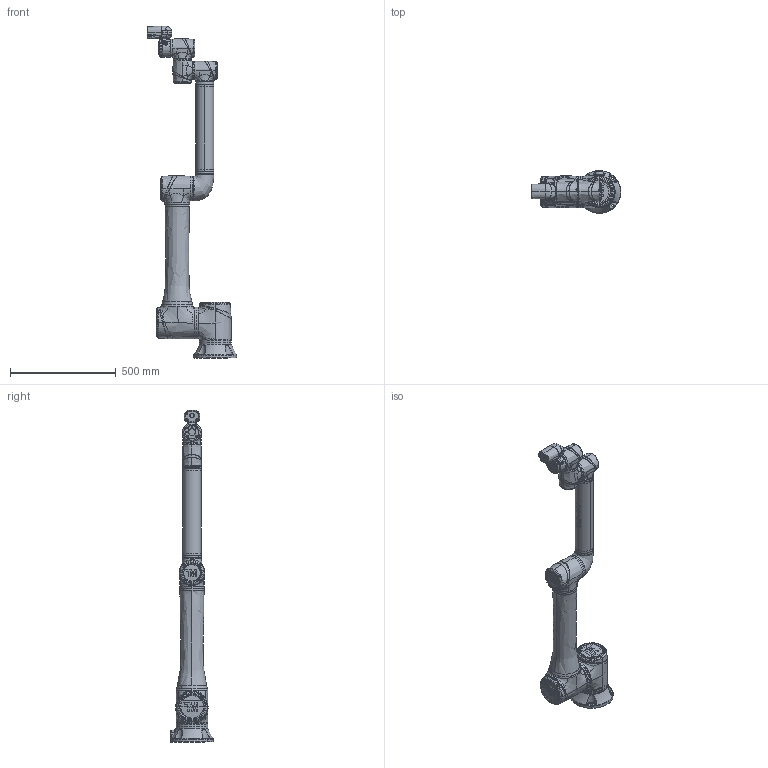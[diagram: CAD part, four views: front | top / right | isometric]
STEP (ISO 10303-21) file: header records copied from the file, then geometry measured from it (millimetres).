
FILE_DESCRIPTION((''),'2;1');
FILE_NAME('TRI-TM12-1300-2018_ASM','2018-09-20T',('sean.lour'),(''),'CREO PARAMETRIC BY PTC INC, 2015290','CREO PARAMETRIC BY PTC INC, 2015290','');
FILE_SCHEMA(('AUTOMOTIVE_DESIGN { 1 0 10303 214 1 1 1 1 }'));
Products named in the file (41): HS700_4; OFLANGE700_4; ADC700_4; ADR700_4; CV700_6; M3_6_6; JT700_ASM_11_ASM; TM12ARM1_4; OFLANGE400_7_9_2_2; HS400_7_9_2_2; CV400_4; JT400_ASM_6_ASM; JL_3; TM12ARM2_3; OFLANGE100_7_8_2_2; HS100-TM5A_6_8_2_2; CV100_3; JT100_ASM_6_ASM; BASE-TM1214_3; AVC-PG16-CALBE-GLANDS_ASM_5_ASM_ASM; BASE-TM1214_ASM_7_ASM; RA1L_4; RA1L_ASM_5_ASM; RA1S_4; RA2_4; IO_MAIN_F_41_5_4_2; LENS_38_5_1_2; M3_8_19_5_1_2; IO_CAP_F_109_5_2_2; M5_16_6_5_1_2; 8A_05PFFS_SH7001_16_5_2_2; PBS_12H_ON_EX_27_5_1_2; IO_CAMERA_F_50_5_2_2; LIGHT_DIFFUSION_42_5_1_2; LIGHT_GLASS_31_5_1_2; ASM_IO_CAMERA_ASM_2_ASM_5_ASM_3_ASM; ASM_IO_F_ASM_5_ASM_5_ASM_2_ASM__ASM; IOM_ASM_4_ASM; TRI-TM12-1300_ASM_20_ASM; TMAA-12_OMRON_LOGO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
Assembly tree (66 placements, depth 6):
  TRI-TM12-1300-2018_ASM
    TRI-TM12-1300_ASM_20_ASM
      JT700_ASM_11_ASM  x2
        HS700_4
        OFLANGE700_4
        ADC700_4
        ADR700_4
        CV700_6
        M3_6_6
      TM12ARM1_4
      JT400_ASM_6_ASM
        OFLANGE400_7_9_2_2
        HS400_7_9_2_2
        CV400_4
        M3_6_6  x4
      JL_3
      TM12ARM2_3
      JT100_ASM_6_ASM  x3
        OFLANGE100_7_8_2_2
        HS100-TM5A_6_8_2_2
        CV100_3
        M3_6_6
      BASE-TM1214_ASM_7_ASM
        BASE-TM1214_3
        AVC-PG16-CALBE-GLANDS_ASM_5_ASM_ASM
      RA1L_ASM_5_ASM
        RA1L_4
      RA1S_4
      RA2_4  x2
      IOM_ASM_4_ASM
        ASM_IO_F_ASM_5_ASM_5_ASM_2_ASM__ASM
          IO_MAIN_F_41_5_4_2
          LENS_38_5_1_2
          M3_8_19_5_1_2  x6
          IO_CAP_F_109_5_2_2
          M5_16_6_5_1_2  x4
          8A_05PFFS_SH7001_16_5_2_2  x2
          PBS_12H_ON_EX_27_5_1_2  x4
          ASM_IO_CAMERA_ASM_2_ASM_5_ASM_3_ASM
            IO_CAMERA_F_50_5_2_2
            LIGHT_DIFFUSION_42_5_1_2
            LIGHT_GLASS_31_5_1_2
    TMAA-12_OMRON_LOGO
Bounding box: 422.96 x 202.44 x 1570.06 mm (x, y, z)
Volume: 21779842.8 mm3; surface area: 1538253.6 mm2
Topology: 73 solids, 85 shells, 3457 faces, 8990 edges, 5856 vertices
Faces by surface type: bspline 1308, plane 1186, cylinder 466, torus 203, cone 138, extrusion 134, revolution 18, sphere 4
Entity records: 126851 total; most frequent: CARTESIAN_POINT 83770, ORIENTED_EDGE 9862, DIRECTION 5755, EDGE_CURVE 5032, VERTEX_POINT 3270, B_SPLINE_CURVE_WITH_KNOTS 2921, AXIS2_PLACEMENT_3D 2247, EDGE_LOOP 2038
